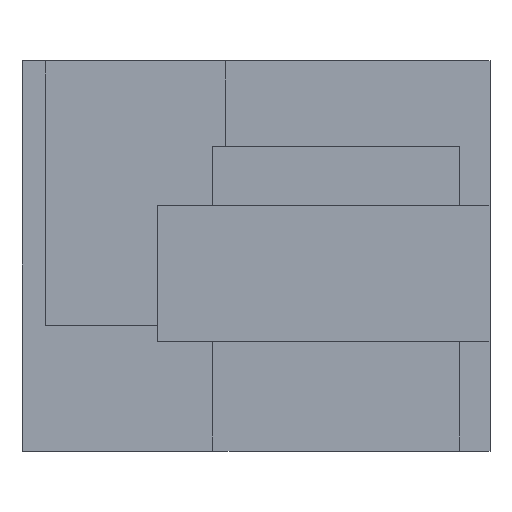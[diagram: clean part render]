
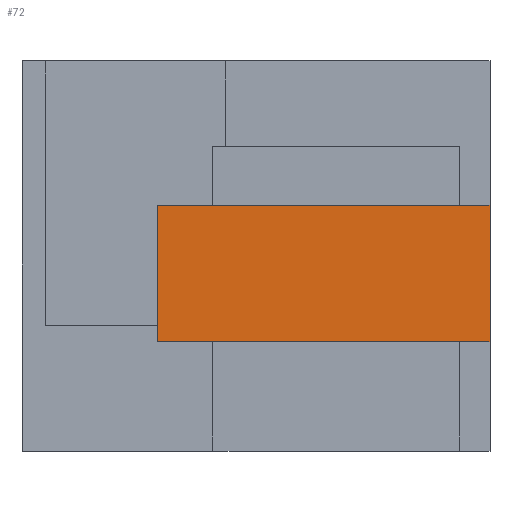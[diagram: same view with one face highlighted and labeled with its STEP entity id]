
A CAD part, top view. The second image highlights one B-rep face of the part: STEP entity #72.
In plain terms, the highlighted planar face has unit normal (0, 0, 1).
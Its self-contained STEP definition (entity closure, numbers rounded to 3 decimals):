
#72=ADVANCED_FACE('',(#124),#760,.T.);
#124=FACE_OUTER_BOUND('',#176,.T.);
#176=EDGE_LOOP('',(#386,#387,#388,#389));
#386=ORIENTED_EDGE('',*,*,#512,.T.);
#387=ORIENTED_EDGE('',*,*,#513,.T.);
#388=ORIENTED_EDGE('',*,*,#514,.T.);
#389=ORIENTED_EDGE('',*,*,#515,.T.);
#512=EDGE_CURVE('',#706,#707,#626,.T.);
#513=EDGE_CURVE('',#707,#708,#627,.T.);
#514=EDGE_CURVE('',#708,#709,#628,.T.);
#515=EDGE_CURVE('',#709,#706,#629,.T.);
#626=B_SPLINE_CURVE_WITH_KNOTS('',1,(#1296,#1297),.UNSPECIFIED.,.F.,.F.,
(2,2),(0.,1684.),.UNSPECIFIED.);
#627=B_SPLINE_CURVE_WITH_KNOTS('',1,(#1298,#1299),.UNSPECIFIED.,.F.,.F.,
(2,2),(0.,691.),.UNSPECIFIED.);
#628=B_SPLINE_CURVE_WITH_KNOTS('',1,(#1300,#1301),.UNSPECIFIED.,.F.,.F.,
(2,2),(0.,1684.),.UNSPECIFIED.);
#629=B_SPLINE_CURVE_WITH_KNOTS('',1,(#1302,#1303),.UNSPECIFIED.,.F.,.F.,
(2,2),(0.,691.),.UNSPECIFIED.);
#706=VERTEX_POINT('',#1288);
#707=VERTEX_POINT('',#1289);
#708=VERTEX_POINT('',#1290);
#709=VERTEX_POINT('',#1291);
#760=PLANE('',#900);
#900=AXIS2_PLACEMENT_3D('',#1282,#955,$);
#955=DIRECTION('',(0.,0.,1.));
#1282=CARTESIAN_POINT('',(871.05,700.38,0.));
#1288=CARTESIAN_POINT('',(871.05,700.38,0.));
#1289=CARTESIAN_POINT('',(3000.001,700.38,0.));
#1290=CARTESIAN_POINT('',(3000.001,1573.957,0.));
#1291=CARTESIAN_POINT('',(871.05,1573.957,0.));
#1296=CARTESIAN_POINT('',(871.05,700.38,0.));
#1297=CARTESIAN_POINT('',(3000.001,700.38,0.));
#1298=CARTESIAN_POINT('',(3000.001,700.38,0.));
#1299=CARTESIAN_POINT('',(3000.001,1573.957,0.));
#1300=CARTESIAN_POINT('',(3000.001,1573.957,0.));
#1301=CARTESIAN_POINT('',(871.05,1573.957,0.));
#1302=CARTESIAN_POINT('',(871.05,1573.957,0.));
#1303=CARTESIAN_POINT('',(871.05,700.38,0.));
